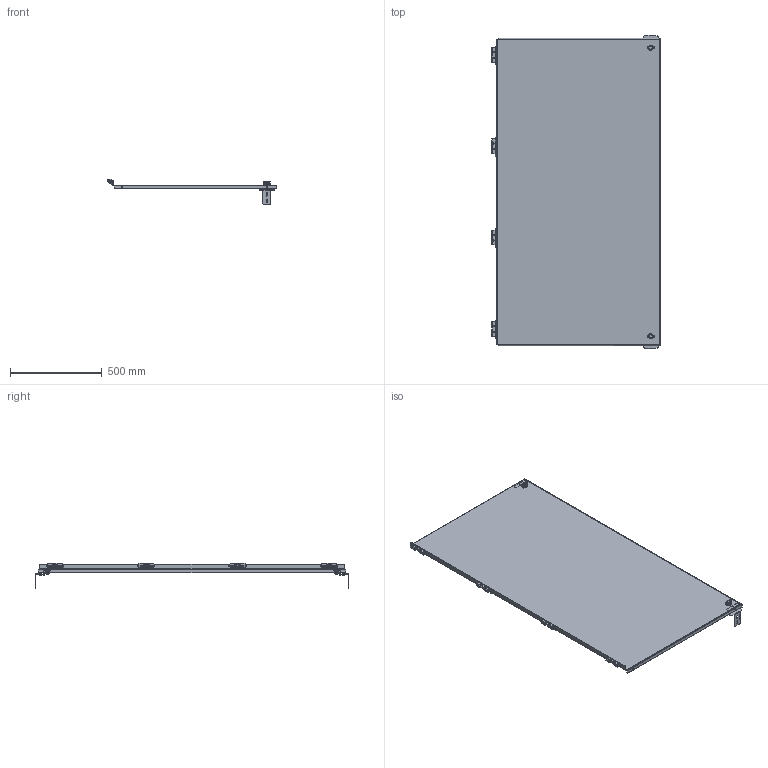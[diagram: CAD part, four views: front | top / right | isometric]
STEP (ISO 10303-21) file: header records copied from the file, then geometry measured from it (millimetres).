
FILE_DESCRIPTION((''),'2;1');
FILE_NAME('SCE-DF1810_ASM','2010-07-07T',('mikek'),(''),'PRO/ENGINEER BY PARAMETRIC TECHNOLOGY CORPORATION, 2009230','PRO/ENGINEER BY PARAMETRIC TECHNOLOGY CORPORATION, 2009230','');
FILE_SCHEMA(('CONFIG_CONTROL_DESIGN'));
Length unit declared in the file: inch
Products named in the file (20): SCE-DF1810-DF-PANEL; 114875; 100022; 114875_ASM; 101369; 101369_PIN; 101369_ASM; 101670; 106491; 101080_SHAFT; 101080_HANDLE; 101080_INSERT; 101080_NUT; 101080_SCREW; 102804_CAM_28MM; 101080_ASM; 102470; 109582; SCE-DF1810-DF-CATCH; SCE-DF1810_ASM
Assembly tree (45 placements, depth 3):
  SCE-DF1810_ASM
    SCE-DF1810-DF-PANEL
    114875_ASM  x4
      114875
      100022
    101369_ASM  x4
      101369
      101369_PIN
    101670  x4
    106491  x8
    101080_ASM  x2
      101080_SHAFT
      101080_HANDLE
      101080_INSERT
      101080_NUT
      101080_SCREW
      102804_CAM_28MM
    102470  x8
    109582
    SCE-DF1810-DF-CATCH  x2
Bounding box: 921 x 1710.99 x 138.99 mm (x, y, z)
Volume: 3325390.3 mm3; surface area: 3328902.5 mm2
Topology: 53 solids, 55 shells, 2424 faces, 6026 edges, 3572 vertices
Faces by surface type: plane 1040, cylinder 774, bspline 264, cone 164, torus 154, sphere 28
Entity records: 30317 total; most frequent: CARTESIAN_POINT 7714, DIRECTION 4308, ORIENTED_EDGE 4110, EDGE_CURVE 2055, AXIS2_PLACEMENT_3D 1610, VERTEX_POINT 1289, VECTOR 1088, LINE 1088
